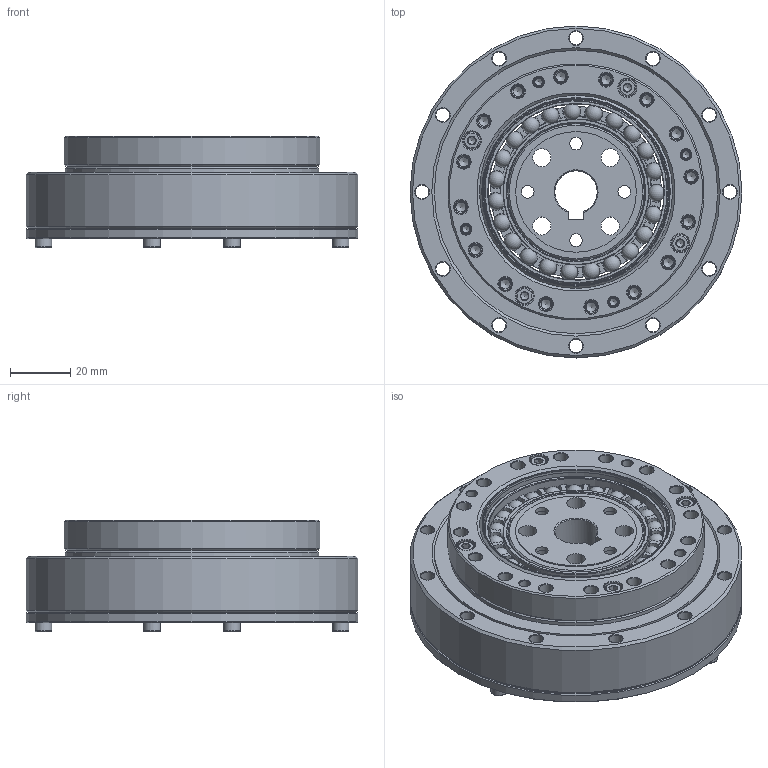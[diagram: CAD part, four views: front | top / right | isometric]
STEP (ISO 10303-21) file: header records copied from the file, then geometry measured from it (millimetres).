
FILE_DESCRIPTION(/* description */ (''),/* implementation_level */ '2;1');
FILE_NAME(/* name */ 'FHG-25-XX-U-I(孔径14).stp',/* time_stamp */ '2024-12-07T10:46:07+08:00',/* author */ (''),/* organization */ (''),/* preprocessor_version */ 'ST-DEVELOPER v16.7',/* originating_system */ 'SIEMENS PLM Software NX 12.0',/* authorisation */ '');
FILE_SCHEMA (('AUTOMOTIVE_DESIGN { 1 0 10303 214 3 1 1 1 }'));
Length unit declared in the file: millimetre
Products named in the file (15): EB456109-25KCH-4680; EB456109-25KCH-0481; EB456109-25KCH-02; EB456109-25KCH-01; TC-84x94x5; GB-T70.1-2000,M3x8; GB-T70.1-2000,M3x12; 发生器FSG-25-XXDL-直径14_stp; O型密封圈70.6-68-0.75; O型密封圈93.8-90-1.1; 刚轮FHG-25; 柔轮FHG-25; EB456109-25KCH_stp; 交叉轴承LHT-25; FHG-25-XX-U-I(孔径14)
Assembly tree (20 placements, depth 3):
  FHG-25-XX-U-I(孔径14)
    柔轮FHG-25
    刚轮FHG-25
    交叉轴承LHT-25
      TC-84x94x5
    O型密封圈93.8-90-1.1
    O型密封圈70.6-68-0.75
    EB456109-25KCH_stp
      EB456109-25KCH-01
      EB456109-25KCH-02
      EB456109-25KCH-0481
      EB456109-25KCH-4680
    发生器FSG-25-XXDL-直径14_stp
    GB-T70.1-2000,M3x12  x4
    GB-T70.1-2000,M3x8  x4
Bounding box: 110 x 110 x 37 mm (x, y, z)
Volume: 154664.4 mm3; surface area: 108149.1 mm2
Topology: 42 solids, 42 shells, 813 faces, 1903 edges, 1157 vertices
Faces by surface type: cone 277, cylinder 214, plane 212, torus 85, sphere 23, bspline 2
Full cylindrical faces by diameter (mm): 2.05 x4, 2.5 x16, 2.874 x8, 3.3 x16, 3.5 x16, 4.2 x8, 4.5 x40, 5.5 x8, 6 x8, 22 x1, 40 x1, 43.5 x1, 45.212 x2, 48.38 x2, 50 x1, 53 x1, 56.6 x1, 58.33 x2, 61.341 x2, 62.086 x1, 63.776 x1, 64.04 x1, 66 x1, 67 x2, 68 x2, 70.6 x2, 76 x1, 84 x3, 85 x1, 85.8 x2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
Entity records: 20084 total; most frequent: CARTESIAN_POINT 5074, DIRECTION 3025, ORIENTED_EDGE 2072, AXIS2_PLACEMENT_3D 1431, EDGE_LOOP 1176, EDGE_CURVE 1036, FACE_BOUND 1025, VERTEX_POINT 889
